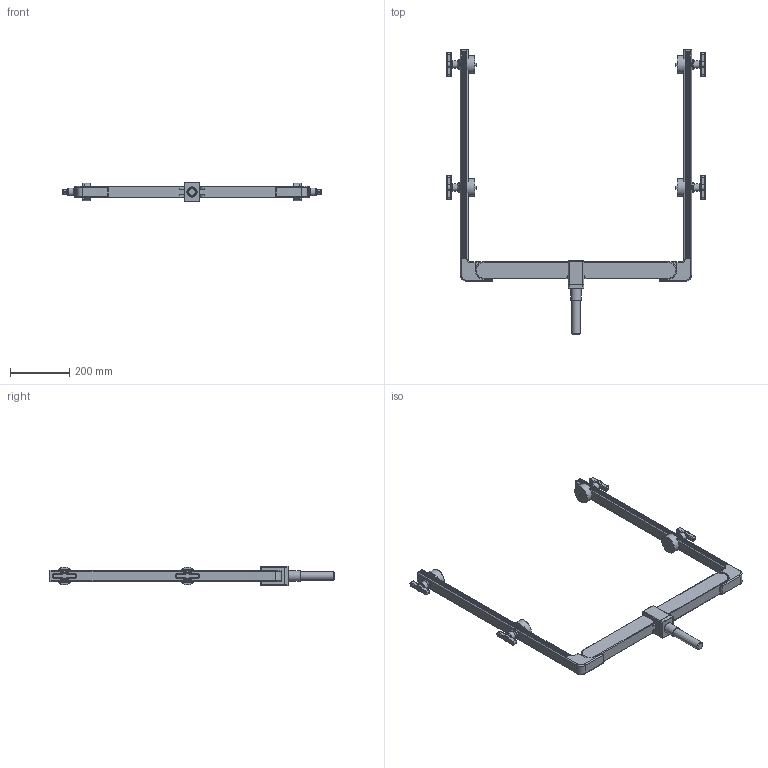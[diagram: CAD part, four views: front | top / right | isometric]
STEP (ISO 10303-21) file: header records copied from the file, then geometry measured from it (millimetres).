
FILE_DESCRIPTION(/* description */ ('STEP AP242','CAx-IF Rec.Pracs.---Representation and Presentation of Product Manufacturing Information (PMI)---4.0---2014-10-13','CAx-IF Rec.Pracs.---3D Tessellated Geometry---0.4---2014-09-14','2;1'),/* implementation_level */ '2;1');
FILE_NAME(/* name */ '67736d7dfc16645169624765',/* time_stamp */ '2024-12-31T04:05:18Z',/* author */ (''),/* organization */ (''),/* preprocessor_version */ 'ST-DEVELOPER v20',/* originating_system */ 'ONSHAPE BY PTC INC, 1.191',/* authorisation */ ' ');
FILE_SCHEMA (('AP242_MANAGED_MODEL_BASED_3D_ENGINEERING_MIM_LF { 1 0 10303 442 1 1 4 }'));
Length unit declared in the file: millimetre
Products named in the file (1): Creamsource Vortex8 2UP Yoke 3D December2024
Bounding box: 871.5 x 960 x 66 mm (x, y, z)
Volume: 4051011.3 mm3; surface area: 436006.1 mm2
Topology: 1 solids, 1 shells, 632 faces, 1446 edges, 852 vertices
Faces by surface type: cylinder 232, plane 198, torus 165, cone 37
Full cylindrical faces by diameter (mm): 10 x8, 28 x1, 34 x1, 60 x4
Entity records: 21511 total; most frequent: DIRECTION 3376, CARTESIAN_POINT 2863, ORIENTED_EDGE 2736, AXIS2_PLACEMENT_3D 1387, EDGE_CURVE 1368, VERTEX_POINT 822, CIRCLE 750, EDGE_LOOP 716
